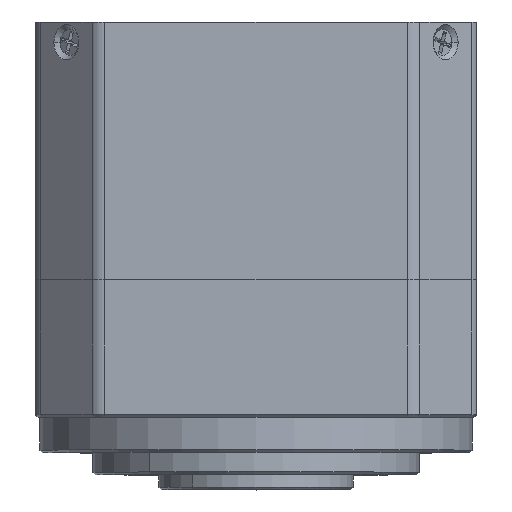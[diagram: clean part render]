
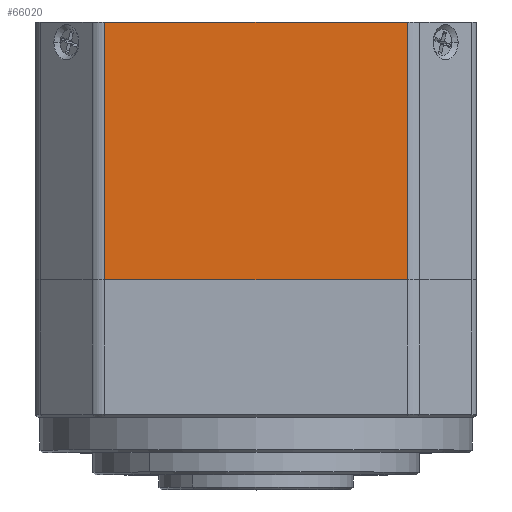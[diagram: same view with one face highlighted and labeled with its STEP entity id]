
A CAD part, top view. The second image highlights one B-rep face of the part: STEP entity #66020.
In plain terms, the highlighted planar face has unit normal (0, 0, 1).
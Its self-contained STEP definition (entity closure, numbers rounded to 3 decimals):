
#136 = CARTESIAN_POINT ( 'NONE',  ( 17.172, -2.3, 25. ) ) ;
#257 = DIRECTION ( 'NONE',  ( 1., 0., 0. ) ) ;
#915 = DIRECTION ( 'NONE',  ( 0., 1., 0. ) ) ;
#1057 = LINE ( 'NONE', #13759, #32851 ) ;
#2093 = ORIENTED_EDGE ( 'NONE', *, *, #58220, .T. ) ;
#8583 = LINE ( 'NONE', #32814, #56621 ) ;
#13759 = CARTESIAN_POINT ( 'NONE',  ( 24., -0.7, 25. ) ) ;
#14275 = EDGE_CURVE ( 'NONE', #45571, #31993, #1057, .T. ) ;
#16629 = LINE ( 'NONE', #28946, #68867 ) ;
#19227 = CARTESIAN_POINT ( 'NONE',  ( 17.172, -0.7, 25. ) ) ;
#20438 = ORIENTED_EDGE ( 'NONE', *, *, #14275, .T. ) ;
#20988 = CARTESIAN_POINT ( 'NONE',  ( -17.172, 28.5, 25. ) ) ;
#21042 = VERTEX_POINT ( 'NONE', #20988 ) ;
#23131 = ORIENTED_EDGE ( 'NONE', *, *, #73131, .F. ) ;
#25656 = FACE_OUTER_BOUND ( 'NONE', #68035, .T. ) ;
#26839 = DIRECTION ( 'NONE',  ( 0., -1., 0. ) ) ;
#28946 = CARTESIAN_POINT ( 'NONE',  ( 18., 28.5, 25. ) ) ;
#30894 = VECTOR ( 'NONE', #915, 1000. ) ;
#31993 = VERTEX_POINT ( 'NONE', #19227 ) ;
#32814 = CARTESIAN_POINT ( 'NONE',  ( -17.172, -2.3, 25. ) ) ;
#32851 = VECTOR ( 'NONE', #37996, 1000. ) ;
#33334 = DIRECTION ( 'NONE',  ( 1., 0., 0. ) ) ;
#36297 = LINE ( 'NONE', #136, #30894 ) ;
#37996 = DIRECTION ( 'NONE',  ( 1., 0., 0. ) ) ;
#38777 = AXIS2_PLACEMENT_3D ( 'NONE', #67766, #78569, #257 ) ;
#42119 = ORIENTED_EDGE ( 'NONE', *, *, #60399, .T. ) ;
#43565 = PLANE ( 'NONE',  #38777 ) ;
#45571 = VERTEX_POINT ( 'NONE', #68175 ) ;
#48260 = VERTEX_POINT ( 'NONE', #55982 ) ;
#55982 = CARTESIAN_POINT ( 'NONE',  ( 17.172, 28.5, 25. ) ) ;
#56621 = VECTOR ( 'NONE', #26839, 1000. ) ;
#58220 = EDGE_CURVE ( 'NONE', #31993, #48260, #36297, .T. ) ;
#60399 = EDGE_CURVE ( 'NONE', #21042, #45571, #8583, .T. ) ;
#66020 = ADVANCED_FACE ( 'NONE', ( #25656 ), #43565, .T. ) ;
#67766 = CARTESIAN_POINT ( 'NONE',  ( 18., -2.3, 25. ) ) ;
#68035 = EDGE_LOOP ( 'NONE', ( #20438, #2093, #23131, #42119 ) ) ;
#68175 = CARTESIAN_POINT ( 'NONE',  ( -17.172, -0.7, 25. ) ) ;
#68867 = VECTOR ( 'NONE', #33334, 1000. ) ;
#73131 = EDGE_CURVE ( 'NONE', #21042, #48260, #16629, .T. ) ;
#78569 = DIRECTION ( 'NONE',  ( 0., 0., 1. ) ) ;
